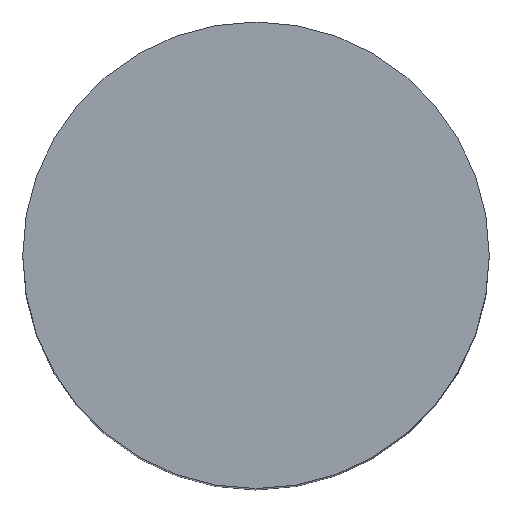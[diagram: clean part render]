
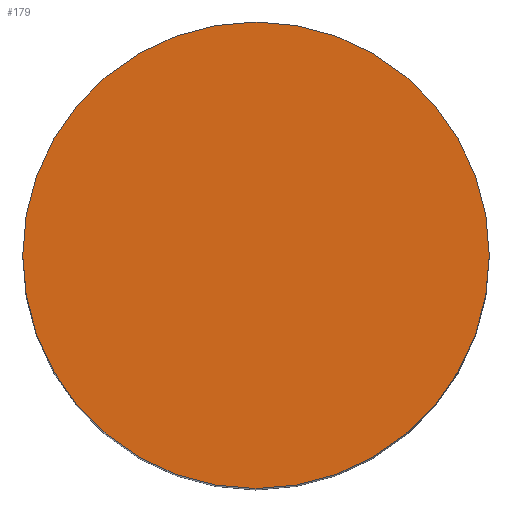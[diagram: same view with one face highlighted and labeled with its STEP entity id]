
A CAD part, top view. The second image highlights one B-rep face of the part: STEP entity #179.
In plain terms, the highlighted planar face has unit normal (0, 0, 1).
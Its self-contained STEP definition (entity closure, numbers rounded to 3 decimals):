
#8 = DIRECTION ( 'NONE',  ( 0., 0., -1. ) ) ;
#27 = DIRECTION ( 'NONE',  ( -0.958, 0.285, 0. ) ) ;
#34 = VERTEX_POINT ( 'NONE', #94 ) ;
#60 = ORIENTED_EDGE ( 'NONE', *, *, #128, .F. ) ;
#62 = CARTESIAN_POINT ( 'NONE',  ( -25.981, 45., 34.539 ) ) ;
#63 = CARTESIAN_POINT ( 'NONE',  ( -25.981, 45., 34.539 ) ) ;
#70 = CIRCLE ( 'NONE', #118, 10. ) ;
#94 = CARTESIAN_POINT ( 'NONE',  ( -15.981, 45., 34.539 ) ) ;
#112 = CIRCLE ( 'NONE', #145, 10. ) ;
#115 = EDGE_LOOP ( 'NONE', ( #60, #200 ) ) ;
#118 = AXIS2_PLACEMENT_3D ( 'NONE', #62, #185, #138 ) ;
#123 = AXIS2_PLACEMENT_3D ( 'NONE', #140, #8, #27 ) ;
#124 = DIRECTION ( 'NONE',  ( 0., 0., -1. ) ) ;
#128 = EDGE_CURVE ( 'NONE', #228, #34, #112, .T. ) ;
#138 = DIRECTION ( 'NONE',  ( 0., 1., 0. ) ) ;
#139 = DIRECTION ( 'NONE',  ( 0., 1., 0. ) ) ;
#140 = CARTESIAN_POINT ( 'NONE',  ( -25.981, 45., 34.539 ) ) ;
#145 = AXIS2_PLACEMENT_3D ( 'NONE', #63, #124, #139 ) ;
#179 = ADVANCED_FACE ( 'NONE', ( #240 ), #206, .F. ) ;
#185 = DIRECTION ( 'NONE',  ( 0., 0., -1. ) ) ;
#200 = ORIENTED_EDGE ( 'NONE', *, *, #234, .F. ) ;
#206 = PLANE ( 'NONE',  #123 ) ;
#228 = VERTEX_POINT ( 'NONE', #242 ) ;
#234 = EDGE_CURVE ( 'NONE', #34, #228, #70, .T. ) ;
#240 = FACE_OUTER_BOUND ( 'NONE', #115, .T. ) ;
#242 = CARTESIAN_POINT ( 'NONE',  ( -35.981, 45., 34.539 ) ) ;
